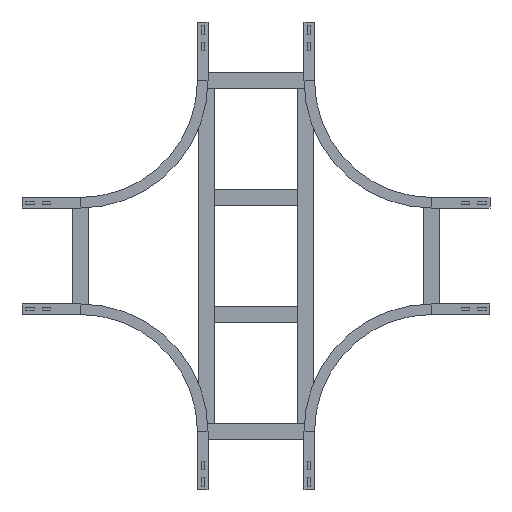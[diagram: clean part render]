
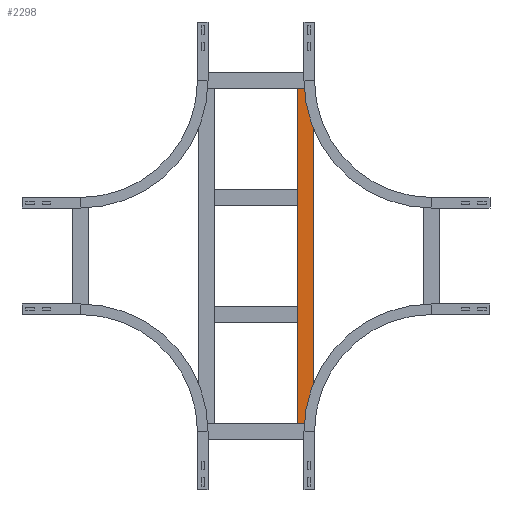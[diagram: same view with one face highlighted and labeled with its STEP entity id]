
A CAD part, front view. The second image highlights one B-rep face of the part: STEP entity #2298.
In plain terms, the highlighted planar face has unit normal (0, -1, 0).
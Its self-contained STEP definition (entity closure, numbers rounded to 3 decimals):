
#77 = EDGE_LOOP ( 'NONE', ( #1176, #434, #1087, #2322 ) ) ;
#158 = CARTESIAN_POINT ( 'NONE',  ( 429.75, 0., -20.25 ) ) ;
#268 = VERTEX_POINT ( 'NONE', #1962 ) ;
#351 = LINE ( 'NONE', #687, #621 ) ;
#366 = DIRECTION ( 'NONE',  ( 0., 0., 1. ) ) ;
#434 = ORIENTED_EDGE ( 'NONE', *, *, #925, .F. ) ;
#453 = VECTOR ( 'NONE', #493, 1000. ) ;
#464 = DIRECTION ( 'NONE',  ( 0., 0., -1. ) ) ;
#469 = LINE ( 'NONE', #2187, #977 ) ;
#493 = DIRECTION ( 'NONE',  ( -1., 0., 0. ) ) ;
#621 = VECTOR ( 'NONE', #1892, 1000. ) ;
#652 = CARTESIAN_POINT ( 'NONE',  ( -429.75, 0., 20.25 ) ) ;
#687 = CARTESIAN_POINT ( 'NONE',  ( 429.75, 0., 20.25 ) ) ;
#753 = PLANE ( 'NONE',  #1182 ) ;
#821 = EDGE_CURVE ( 'NONE', #268, #964, #469, .T. ) ;
#839 = CARTESIAN_POINT ( 'NONE',  ( -429.75, 0., 20.25 ) ) ;
#875 = VERTEX_POINT ( 'NONE', #839 ) ;
#882 = LINE ( 'NONE', #1497, #453 ) ;
#925 = EDGE_CURVE ( 'NONE', #964, #1927, #882, .T. ) ;
#958 = DIRECTION ( 'NONE',  ( 0., 1., 0. ) ) ;
#964 = VERTEX_POINT ( 'NONE', #158 ) ;
#977 = VECTOR ( 'NONE', #1448, 1000. ) ;
#1087 = ORIENTED_EDGE ( 'NONE', *, *, #821, .F. ) ;
#1110 = EDGE_CURVE ( 'NONE', #875, #1927, #2216, .T. ) ;
#1176 = ORIENTED_EDGE ( 'NONE', *, *, #1110, .T. ) ;
#1182 = AXIS2_PLACEMENT_3D ( 'NONE', #1493, #958, #366 ) ;
#1448 = DIRECTION ( 'NONE',  ( 0., 0., -1. ) ) ;
#1493 = CARTESIAN_POINT ( 'NONE',  ( 429.75, 0., 20.25 ) ) ;
#1497 = CARTESIAN_POINT ( 'NONE',  ( 429.75, 0., -20.25 ) ) ;
#1541 = EDGE_CURVE ( 'NONE', #268, #875, #351, .T. ) ;
#1546 = VECTOR ( 'NONE', #464, 1000. ) ;
#1777 = CARTESIAN_POINT ( 'NONE',  ( -429.75, 0., -20.25 ) ) ;
#1892 = DIRECTION ( 'NONE',  ( -1., 0., 0. ) ) ;
#1927 = VERTEX_POINT ( 'NONE', #1777 ) ;
#1962 = CARTESIAN_POINT ( 'NONE',  ( 429.75, 0., 20.25 ) ) ;
#2108 = FACE_OUTER_BOUND ( 'NONE', #77, .T. ) ;
#2187 = CARTESIAN_POINT ( 'NONE',  ( 429.75, 0., 20.25 ) ) ;
#2216 = LINE ( 'NONE', #652, #1546 ) ;
#2298 = ADVANCED_FACE ( 'NONE', ( #2108 ), #753, .F. ) ;
#2322 = ORIENTED_EDGE ( 'NONE', *, *, #1541, .T. ) ;
